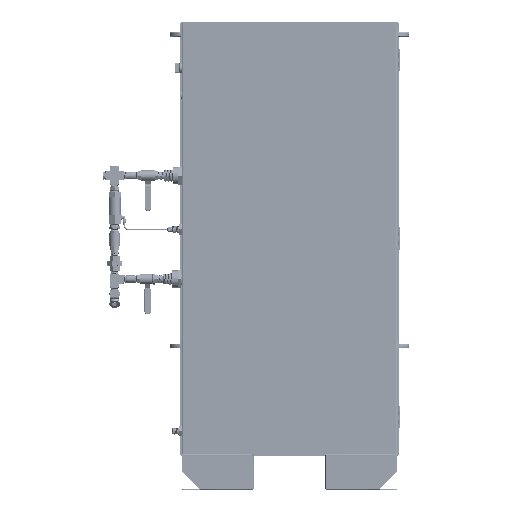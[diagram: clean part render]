
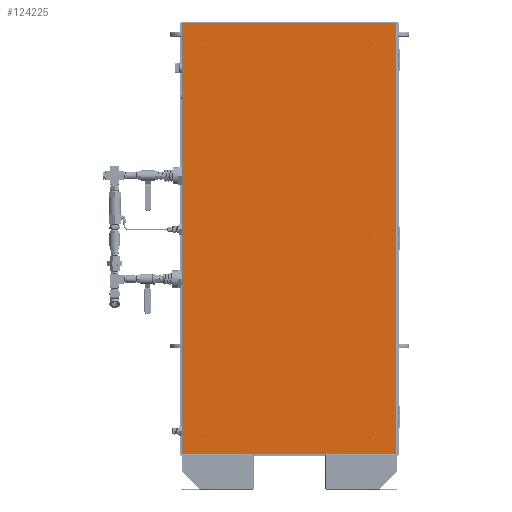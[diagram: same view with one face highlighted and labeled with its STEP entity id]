
A CAD part, left-side view. The second image highlights one B-rep face of the part: STEP entity #124225.
In plain terms, the highlighted planar face has unit normal (-1, 0, 0).
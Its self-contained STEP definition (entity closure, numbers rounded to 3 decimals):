
#3381=PLANE('',#132503);
#6293=FACE_BOUND('',#19514,.T.);
#6294=FACE_BOUND('',#19515,.T.);
#6295=FACE_BOUND('',#19516,.T.);
#6296=FACE_BOUND('',#19517,.T.);
#6297=FACE_BOUND('',#19518,.T.);
#6298=FACE_BOUND('',#19519,.T.);
#13243=FACE_OUTER_BOUND('',#19513,.T.);
#19513=EDGE_LOOP('',(#95259,#95260,#95261,#95262));
#19514=EDGE_LOOP('',(#95263,#95264));
#19515=EDGE_LOOP('',(#95265,#95266));
#19516=EDGE_LOOP('',(#95267,#95268));
#19517=EDGE_LOOP('',(#95269,#95270));
#19518=EDGE_LOOP('',(#95271,#95272));
#19519=EDGE_LOOP('',(#95273,#95274));
#26624=LINE('',#332693,#36113);
#26628=LINE('',#332711,#36117);
#26718=LINE('',#333019,#36207);
#26748=LINE('',#333126,#36237);
#36113=VECTOR('',#151346,39.37);
#36117=VECTOR('',#151362,39.37);
#36207=VECTOR('',#151520,39.37);
#36237=VECTOR('',#151640,39.37);
#44399=CIRCLE('',#132372,0.045);
#44400=CIRCLE('',#132373,0.045);
#44403=CIRCLE('',#132377,0.045);
#44404=CIRCLE('',#132378,0.045);
#44467=CIRCLE('',#132484,0.045);
#44468=CIRCLE('',#132485,0.045);
#44471=CIRCLE('',#132489,0.045);
#44472=CIRCLE('',#132490,0.045);
#44475=CIRCLE('',#132494,0.045);
#44476=CIRCLE('',#132495,0.045);
#44479=CIRCLE('',#132499,0.045);
#44480=CIRCLE('',#132500,0.045);
#52322=VERTEX_POINT('',#332554);
#52323=VERTEX_POINT('',#332555);
#52326=VERTEX_POINT('',#332564);
#52327=VERTEX_POINT('',#332565);
#52370=VERTEX_POINT('',#332691);
#52371=VERTEX_POINT('',#332692);
#52378=VERTEX_POINT('',#332709);
#52379=VERTEX_POINT('',#332710);
#52510=VERTEX_POINT('',#333086);
#52511=VERTEX_POINT('',#333087);
#52514=VERTEX_POINT('',#333096);
#52515=VERTEX_POINT('',#333097);
#52518=VERTEX_POINT('',#333106);
#52519=VERTEX_POINT('',#333107);
#52522=VERTEX_POINT('',#333116);
#52523=VERTEX_POINT('',#333117);
#68217=EDGE_CURVE('',#52322,#52323,#44399,.T.);
#68218=EDGE_CURVE('',#52323,#52322,#44400,.T.);
#68222=EDGE_CURVE('',#52326,#52327,#44403,.T.);
#68223=EDGE_CURVE('',#52327,#52326,#44404,.T.);
#68285=EDGE_CURVE('',#52370,#52371,#26624,.T.);
#68293=EDGE_CURVE('',#52378,#52379,#26628,.T.);
#68417=EDGE_CURVE('',#52370,#52379,#26718,.T.);
#68451=EDGE_CURVE('',#52510,#52511,#44467,.T.);
#68452=EDGE_CURVE('',#52511,#52510,#44468,.T.);
#68456=EDGE_CURVE('',#52514,#52515,#44471,.T.);
#68457=EDGE_CURVE('',#52515,#52514,#44472,.T.);
#68461=EDGE_CURVE('',#52518,#52519,#44475,.T.);
#68462=EDGE_CURVE('',#52519,#52518,#44476,.T.);
#68466=EDGE_CURVE('',#52522,#52523,#44479,.T.);
#68467=EDGE_CURVE('',#52523,#52522,#44480,.T.);
#68471=EDGE_CURVE('',#52378,#52371,#26748,.T.);
#95259=ORIENTED_EDGE('',*,*,#68417,.F.);
#95260=ORIENTED_EDGE('',*,*,#68285,.T.);
#95261=ORIENTED_EDGE('',*,*,#68471,.F.);
#95262=ORIENTED_EDGE('',*,*,#68293,.T.);
#95263=ORIENTED_EDGE('',*,*,#68466,.T.);
#95264=ORIENTED_EDGE('',*,*,#68467,.T.);
#95265=ORIENTED_EDGE('',*,*,#68217,.T.);
#95266=ORIENTED_EDGE('',*,*,#68218,.T.);
#95267=ORIENTED_EDGE('',*,*,#68461,.T.);
#95268=ORIENTED_EDGE('',*,*,#68462,.T.);
#95269=ORIENTED_EDGE('',*,*,#68456,.T.);
#95270=ORIENTED_EDGE('',*,*,#68457,.T.);
#95271=ORIENTED_EDGE('',*,*,#68451,.T.);
#95272=ORIENTED_EDGE('',*,*,#68452,.T.);
#95273=ORIENTED_EDGE('',*,*,#68222,.T.);
#95274=ORIENTED_EDGE('',*,*,#68223,.T.);
#124225=ADVANCED_FACE('',(#13243,#6293,#6294,#6295,#6296,#6297,#6298),#3381,
 .F.);
#132372=AXIS2_PLACEMENT_3D('',#332556,#151210,#151211);
#132373=AXIS2_PLACEMENT_3D('',#332557,#151212,#151213);
#132377=AXIS2_PLACEMENT_3D('',#332566,#151221,#151222);
#132378=AXIS2_PLACEMENT_3D('',#332567,#151223,#151224);
#132484=AXIS2_PLACEMENT_3D('',#333088,#151596,#151597);
#132485=AXIS2_PLACEMENT_3D('',#333089,#151598,#151599);
#132489=AXIS2_PLACEMENT_3D('',#333098,#151607,#151608);
#132490=AXIS2_PLACEMENT_3D('',#333099,#151609,#151610);
#132494=AXIS2_PLACEMENT_3D('',#333108,#151618,#151619);
#132495=AXIS2_PLACEMENT_3D('',#333109,#151620,#151621);
#132499=AXIS2_PLACEMENT_3D('',#333118,#151629,#151630);
#132500=AXIS2_PLACEMENT_3D('',#333119,#151631,#151632);
#132503=AXIS2_PLACEMENT_3D('',#333125,#151638,#151639);
#151210=DIRECTION('center_axis',(1.,0.,0.));
#151211=DIRECTION('ref_axis',(0.,1.,0.));
#151212=DIRECTION('center_axis',(1.,0.,0.));
#151213=DIRECTION('ref_axis',(0.,1.,0.));
#151221=DIRECTION('center_axis',(1.,0.,0.));
#151222=DIRECTION('ref_axis',(0.,1.,0.));
#151223=DIRECTION('center_axis',(1.,0.,0.));
#151224=DIRECTION('ref_axis',(0.,1.,0.));
#151346=DIRECTION('',(0.,0.,-1.));
#151362=DIRECTION('',(0.,0.,1.));
#151520=DIRECTION('',(0.,-1.,0.));
#151596=DIRECTION('center_axis',(1.,0.,0.));
#151597=DIRECTION('ref_axis',(0.,1.,0.));
#151598=DIRECTION('center_axis',(1.,0.,0.));
#151599=DIRECTION('ref_axis',(0.,1.,0.));
#151607=DIRECTION('center_axis',(1.,0.,0.));
#151608=DIRECTION('ref_axis',(0.,1.,0.));
#151609=DIRECTION('center_axis',(1.,0.,0.));
#151610=DIRECTION('ref_axis',(0.,1.,0.));
#151618=DIRECTION('center_axis',(1.,0.,0.));
#151619=DIRECTION('ref_axis',(0.,1.,0.));
#151620=DIRECTION('center_axis',(1.,0.,0.));
#151621=DIRECTION('ref_axis',(0.,1.,0.));
#151629=DIRECTION('center_axis',(1.,0.,0.));
#151630=DIRECTION('ref_axis',(0.,1.,0.));
#151631=DIRECTION('center_axis',(1.,0.,0.));
#151632=DIRECTION('ref_axis',(0.,1.,0.));
#151638=DIRECTION('center_axis',(1.,0.,0.));
#151639=DIRECTION('ref_axis',(0.,1.,0.));
#151640=DIRECTION('',(0.,1.,0.));
#332554=CARTESIAN_POINT('',(0.,21.67,6.437));
#332555=CARTESIAN_POINT('',(0.,21.58,6.437));
#332556=CARTESIAN_POINT('Origin',(0.,21.625,6.437));
#332557=CARTESIAN_POINT('Origin',(0.,21.625,6.437));
#332564=CARTESIAN_POINT('',(0.,2.42,49.687));
#332565=CARTESIAN_POINT('',(0.,2.33,49.687));
#332566=CARTESIAN_POINT('Origin',(0.,2.375,
49.687));
#332567=CARTESIAN_POINT('Origin',(0.,2.375,
49.687));
#332691=CARTESIAN_POINT('',(0.,23.887,52.062));
#332692=CARTESIAN_POINT('',(0.,23.887,4.062));
#332693=CARTESIAN_POINT('',(0.,23.887,52.062));
#332709=CARTESIAN_POINT('',(0.,0.113,4.062));
#332710=CARTESIAN_POINT('',(0.,0.113,52.062));
#332711=CARTESIAN_POINT('',(0.,0.113,4.062));
#333019=CARTESIAN_POINT('',(0.,24.,52.062));
#333086=CARTESIAN_POINT('',(0.,2.42,28.062));
#333087=CARTESIAN_POINT('',(0.,2.33,28.062));
#333088=CARTESIAN_POINT('Origin',(0.,2.375,28.062));
#333089=CARTESIAN_POINT('Origin',(0.,2.375,28.062));
#333096=CARTESIAN_POINT('',(0.,21.67,49.687));
#333097=CARTESIAN_POINT('',(0.,21.58,49.687));
#333098=CARTESIAN_POINT('Origin',(0.,21.625,49.687));
#333099=CARTESIAN_POINT('Origin',(0.,21.625,49.687));
#333106=CARTESIAN_POINT('',(0.,21.67,28.062));
#333107=CARTESIAN_POINT('',(0.,21.58,28.062));
#333108=CARTESIAN_POINT('Origin',(0.,21.625,28.062));
#333109=CARTESIAN_POINT('Origin',(0.,21.625,28.062));
#333116=CARTESIAN_POINT('',(0.,2.42,6.437));
#333117=CARTESIAN_POINT('',(0.,2.33,6.437));
#333118=CARTESIAN_POINT('Origin',(0.,2.375,
6.437));
#333119=CARTESIAN_POINT('Origin',(0.,2.375,
6.437));
#333125=CARTESIAN_POINT('Origin',(0.,12.,43.062));
#333126=CARTESIAN_POINT('',(0.,0.,
4.062));
